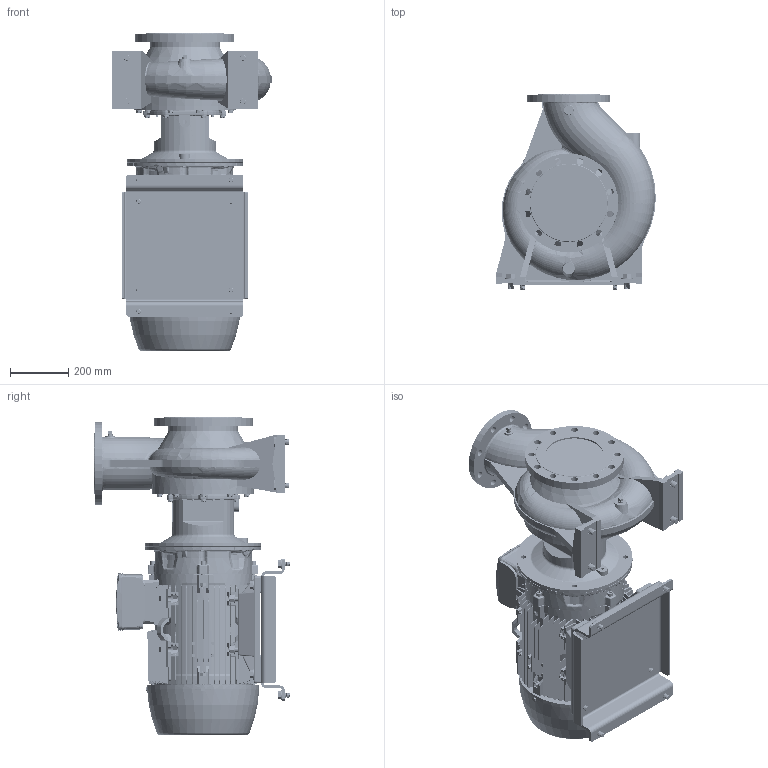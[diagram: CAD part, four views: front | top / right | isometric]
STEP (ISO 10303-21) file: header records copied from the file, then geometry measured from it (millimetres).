
FILE_DESCRIPTION (( 'STEP AP214' ), '1' );
FILE_NAME ('GSD4 150-250_30_(200ML)_W21.STEP', '2026-07-01T02:43:50', ( '' ), ( '' ), 'SwSTEP 2.0', 'SolidWorks 2024', '' );
FILE_SCHEMA (( 'AUTOMOTIVE_DESIGN' ));
Length unit declared in the file: millimetre
Products named in the file (12): Parametric bolt and washer_SFT-A403B; Parametric bolt and washer_SFT-A351B; Parametric bolt_SFT-A351B; GSD4 150-250_30_(200ML)_W21; CGS11-5273; Parametric Flat Washer_M16; Parametric Flat Washer_M20; Parametric bolt_SFT-A359B; 200M_L ALIE3_W21T_B35; 150-250-200M_L_ﾃﾞﾌｫﾙﾄ; Parametric bolt and washer_SFT-A359B; Parametric bolt_SFT-A403B
Assembly tree (21 placements, depth 3):
  GSD4 150-250_30_(200ML)_W21
    150-250-200M_L_ﾃﾞﾌｫﾙﾄ
    CGS11-5273
    Parametric bolt and washer_SFT-A403B  x4
      Parametric bolt_SFT-A403B
      Parametric Flat Washer_M20
    Parametric bolt and washer_SFT-A351B  x4
      Parametric bolt_SFT-A351B
      Parametric Flat Washer_M16
    Parametric bolt and washer_SFT-A359B  x4
      Parametric bolt_SFT-A359B
      Parametric Flat Washer_M16
    200M_L ALIE3_W21T_B35
Bounding box: 549.19 x 673 x 1093.8 mm (x, y, z)
Volume: 114549748.6 mm3; surface area: 5406095.8 mm2
Topology: 59 solids, 69 shells, 7474 faces, 19296 edges, 12426 vertices
Faces by surface type: plane 4319, cylinder 1432, bspline 938, cone 593, torus 192
Entity records: 296908 total; most frequent: CARTESIAN_POINT 139142, ORIENTED_EDGE 35126, DIRECTION 28494, EDGE_CURVE 17563, VERTEX_POINT 11355, VECTOR 10918, LINE 10918, AXIS2_PLACEMENT_3D 8788
